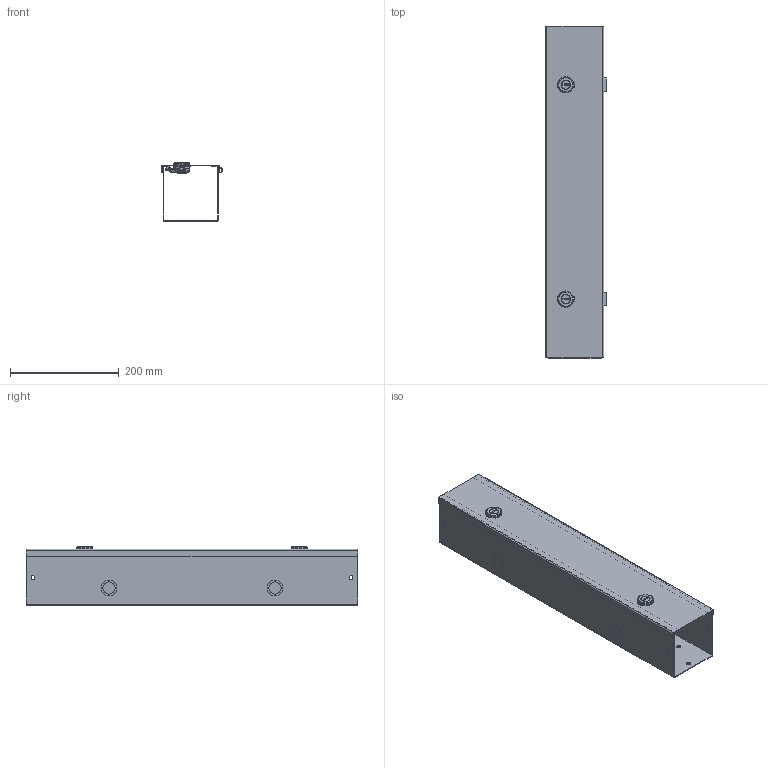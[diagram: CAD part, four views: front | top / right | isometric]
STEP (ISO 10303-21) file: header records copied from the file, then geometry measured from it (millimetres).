
FILE_DESCRIPTION(/* description */ ('1100SS 24" x 4" x 4" Assembly'),/* implementation_level */ '2;1');
FILE_NAME(/* name */ '1100SS4024.stp',/* time_stamp */ '2024-03-25T00:03:15-04:00',/* author */ ('BoxCad'),/* organization */ (''),/* preprocessor_version */ 'ST-DEVELOPER v20',/* originating_system */ 'Autodesk Inventor 2024',/* authorisation */ '');
FILE_SCHEMA (('AUTOMOTIVE_DESIGN { 1 0 10303 214 3 1 1 }'));
Products named in the file (11): 1100SS4024; 1100SS4024B; 1100SS4024B-P; 1100SS4024C; 1100SS4024C-P; STK-P-02400S; STK-Q-33361; STK-A-880SCQ1-SL-1; STK-A-880SCQ1-SL-2; STK-Q-78631; STK-Q-78644
Assembly tree (14 placements, depth 4):
  1100SS4024
    1100SS4024B
      1100SS4024B-P
      STK-P-02400S
    1100SS4024C
      1100SS4024C-P
      STK-P-02400S
      STK-Q-33361  x2
      STK-A-880SCQ1-SL-1
        STK-Q-78631
        STK-Q-78644
      STK-A-880SCQ1-SL-2
        STK-Q-78631
        STK-Q-78644
Bounding box: 111.9 x 609.6 x 107.6 mm (x, y, z)
Volume: 399627.6 mm3; surface area: 572661.4 mm2
Topology: 8 solids, 8 shells, 3370 faces, 8596 edges, 5186 vertices
Faces by surface type: plane 1278, cylinder 896, bspline 826, torus 212, sphere 158
Full cylindrical faces by diameter (mm): 0.762 x2, 7.137 x10, 30 x2
Entity records: 60101 total; most frequent: CARTESIAN_POINT 18271, ORIENTED_EDGE 9070, DIRECTION 7880, EDGE_CURVE 4535, VERTEX_POINT 2797, AXIS2_PLACEMENT_3D 2682, LINE 2516, VECTOR 2516
